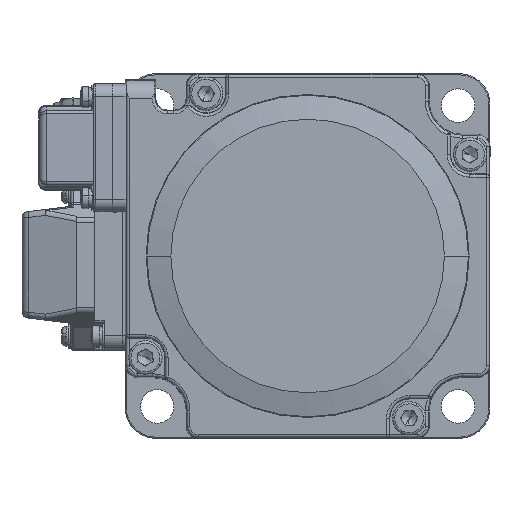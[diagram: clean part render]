
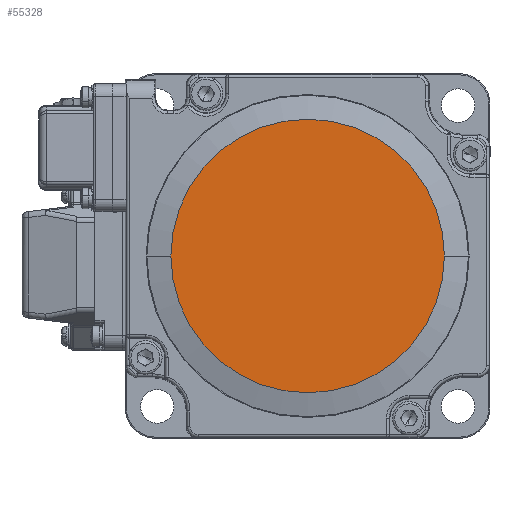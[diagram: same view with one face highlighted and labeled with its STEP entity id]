
A CAD part, left-side view. The second image highlights one B-rep face of the part: STEP entity #55328.
In plain terms, the highlighted planar face has unit normal (-1, 0, 0).
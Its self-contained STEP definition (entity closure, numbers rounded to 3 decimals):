
#5961 = ORIENTED_EDGE ( 'NONE', *, *, #47919, .T. ) ;
#9639 = VERTEX_POINT ( 'NONE', #12357 ) ;
#12357 = CARTESIAN_POINT ( 'NONE',  ( -77.1, 22.5, 0. ) ) ;
#12823 = DIRECTION ( 'NONE',  ( 0., 1., 0. ) ) ;
#16553 = ORIENTED_EDGE ( 'NONE', *, *, #62536, .T. ) ;
#18140 = DIRECTION ( 'NONE',  ( -1., 0., 0. ) ) ;
#18569 = CIRCLE ( 'NONE', #26744, 22.5 ) ;
#19375 = VERTEX_POINT ( 'NONE', #26679 ) ;
#26679 = CARTESIAN_POINT ( 'NONE',  ( -77.1, -22.5, 0. ) ) ;
#26742 = CARTESIAN_POINT ( 'NONE',  ( -77.1, 0., 0. ) ) ;
#26744 = AXIS2_PLACEMENT_3D ( 'NONE', #61576, #18140, #33089 ) ;
#30679 = PLANE ( 'NONE',  #33229 ) ;
#31574 = CIRCLE ( 'NONE', #47703, 22.5 ) ;
#33089 = DIRECTION ( 'NONE',  ( 0., -1., 0. ) ) ;
#33229 = AXIS2_PLACEMENT_3D ( 'NONE', #55940, #41415, #12823 ) ;
#35623 = DIRECTION ( 'NONE',  ( 0., -1., 0. ) ) ;
#41415 = DIRECTION ( 'NONE',  ( 1., 0., 0. ) ) ;
#45221 = FACE_OUTER_BOUND ( 'NONE', #45477, .T. ) ;
#45477 = EDGE_LOOP ( 'NONE', ( #5961, #16553 ) ) ;
#47703 = AXIS2_PLACEMENT_3D ( 'NONE', #26742, #59665, #35623 ) ;
#47919 = EDGE_CURVE ( 'NONE', #19375, #9639, #18569, .T. ) ;
#55328 = ADVANCED_FACE ( 'NONE', ( #45221 ), #30679, .F. ) ;
#55940 = CARTESIAN_POINT ( 'NONE',  ( -77.1, 22., 26. ) ) ;
#59665 = DIRECTION ( 'NONE',  ( -1., 0., 0. ) ) ;
#61576 = CARTESIAN_POINT ( 'NONE',  ( -77.1, 0., 0. ) ) ;
#62536 = EDGE_CURVE ( 'NONE', #9639, #19375, #31574, .T. ) ;
